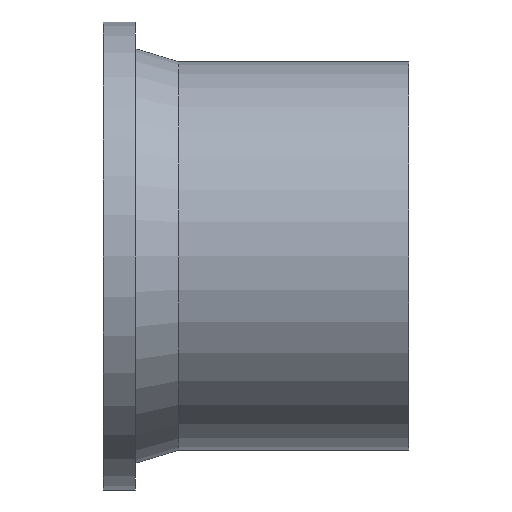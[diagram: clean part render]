
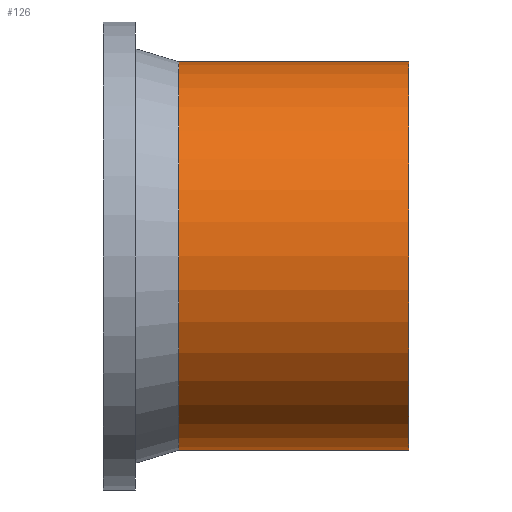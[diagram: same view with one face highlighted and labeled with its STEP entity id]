
A CAD part, front view. The second image highlights one B-rep face of the part: STEP entity #126.
In plain terms, the highlighted cylindrical face has radius 200 mm (diameter 400 mm), a full revolution.
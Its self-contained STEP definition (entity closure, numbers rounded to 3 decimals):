
#77=CARTESIAN_POINT('',(78.,200.,0.));
#78=VERTEX_POINT('',#77);
#79=CARTESIAN_POINT('',(78.,0.,0.));
#80=DIRECTION('',(1.,0.,0.));
#81=DIRECTION('',(0.,1.,0.));
#82=AXIS2_PLACEMENT_3D('',#79,#80,#81);
#83=CIRCLE('',#82,200.);
#84=EDGE_CURVE('',#78,#78,#83,.T.);
#102=CARTESIAN_POINT('',(315.,200.,0.));
#103=VERTEX_POINT('',#102);
#104=CARTESIAN_POINT('',(315.,0.,0.));
#105=DIRECTION('',(1.,0.,0.));
#106=DIRECTION('',(0.,1.,0.));
#107=AXIS2_PLACEMENT_3D('',#104,#105,#106);
#108=CIRCLE('',#107,200.);
#109=EDGE_CURVE('',#103,#103,#108,.T.);
#110=ORIENTED_EDGE('',*,*,#109,.F.);
#111=CARTESIAN_POINT('',(196.5,200.,0.));
#112=DIRECTION('',(1.,0.,0.));
#113=VECTOR('',#112,200.);
#114=LINE('',#111,#113);
#115=EDGE_CURVE('',#78,#103,#114,.T.);
#116=ORIENTED_EDGE('',*,*,#115,.F.);
#117=ORIENTED_EDGE('',*,*,#84,.T.);
#118=ORIENTED_EDGE('',*,*,#115,.T.);
#119=EDGE_LOOP('',(#110,#116,#117,#118));
#120=FACE_OUTER_BOUND('',#119,.T.);
#121=CARTESIAN_POINT('',(196.5,0.,0.));
#122=DIRECTION('',(1.,0.,0.));
#123=DIRECTION('',(0.,1.,0.));
#124=AXIS2_PLACEMENT_3D('',#121,#122,#123);
#125=CYLINDRICAL_SURFACE('',#124,200.);
#126=ADVANCED_FACE('',(#120),#125,.T.);
